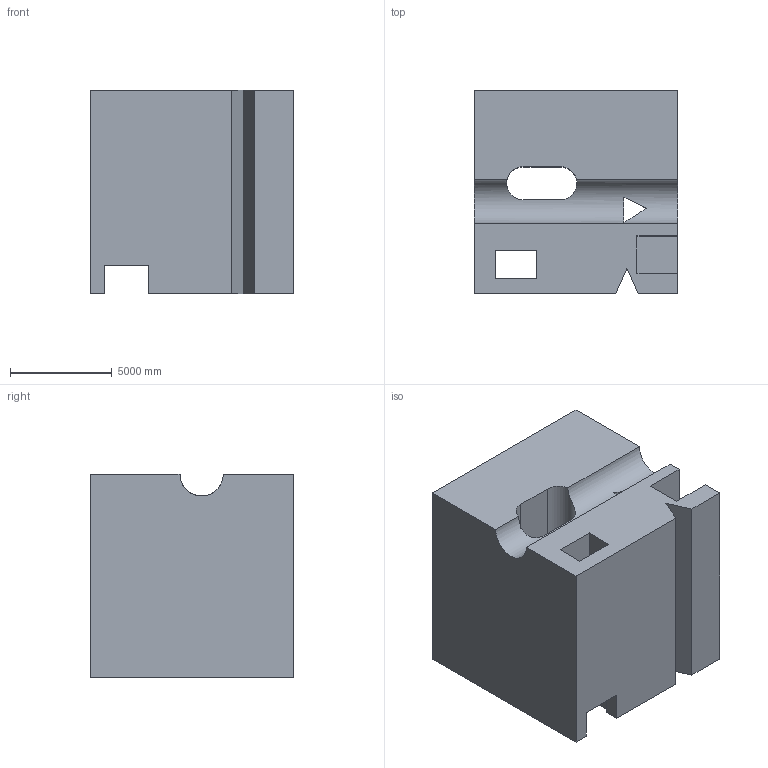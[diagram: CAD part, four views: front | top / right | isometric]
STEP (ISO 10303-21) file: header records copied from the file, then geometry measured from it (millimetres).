
FILE_DESCRIPTION (( 'STEP AP203' ), '1' );
FILE_NAME ('932.STEP', '2022-08-04T16:16:38', ( 'user' ), ( '' ), 'SwSTEP 2.0', 'SolidWorks 2021', '' );
FILE_SCHEMA (( 'CONFIG_CONTROL_DESIGN' ));
Length unit declared in the file: centimetre
Products named in the file (1): 932
Bounding box: 10000 x 10000 x 10000 mm (x, y, z)
Volume: 810870495289.2 mm3; surface area: 866094605.9 mm2
Topology: 1 solids, 1 shells, 48 faces, 150 edges, 100 vertices
Faces by surface type: plane 42, cylinder 6
Entity records: 1931 total; most frequent: CARTESIAN_POINT 503, ORIENTED_EDGE 300, DIRECTION 255, EDGE_CURVE 150, VECTOR 133, LINE 133, VERTEX_POINT 100, AXIS2_PLACEMENT_3D 61
